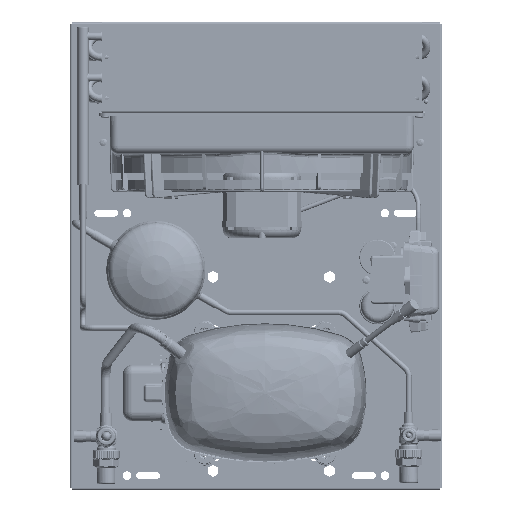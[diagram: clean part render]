
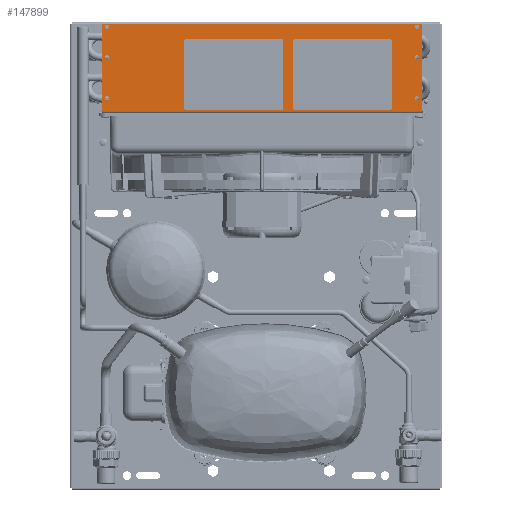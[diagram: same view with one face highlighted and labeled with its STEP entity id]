
A CAD part, top view. The second image highlights one B-rep face of the part: STEP entity #147899.
In plain terms, the highlighted planar face has unit normal (0, 0, 1).
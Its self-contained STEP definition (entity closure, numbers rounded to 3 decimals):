
#15405=LINE('',#241571,#23740);
#15418=LINE('',#241618,#23753);
#15422=LINE('',#241627,#23757);
#15424=LINE('',#241631,#23759);
#23740=VECTOR('',#208455,1000.);
#23753=VECTOR('',#208502,1000.);
#23757=VECTOR('',#208512,1000.);
#23759=VECTOR('',#208518,1000.);
#34549=ORIENTED_EDGE('',*,*,#77783,.F.);
#34550=ORIENTED_EDGE('',*,*,#77784,.F.);
#34551=ORIENTED_EDGE('',*,*,#77785,.F.);
#34552=ORIENTED_EDGE('',*,*,#77786,.F.);
#34553=ORIENTED_EDGE('',*,*,#77787,.F.);
#34554=ORIENTED_EDGE('',*,*,#77788,.F.);
#34555=ORIENTED_EDGE('',*,*,#77775,.T.);
#34556=ORIENTED_EDGE('',*,*,#77780,.F.);
#34557=ORIENTED_EDGE('',*,*,#77752,.F.);
#34558=ORIENTED_EDGE('',*,*,#77782,.T.);
#77752=EDGE_CURVE('',#99896,#99897,#15405,.T.);
#77775=EDGE_CURVE('',#99914,#99912,#15418,.T.);
#77780=EDGE_CURVE('',#99897,#99912,#15422,.T.);
#77782=EDGE_CURVE('',#99896,#99914,#15424,.T.);
#77783=EDGE_CURVE('',#99916,#99916,#114538,.T.);
#77784=EDGE_CURVE('',#99917,#99917,#114539,.T.);
#77785=EDGE_CURVE('',#99918,#99918,#114540,.T.);
#77786=EDGE_CURVE('',#99919,#99919,#114541,.T.);
#77787=EDGE_CURVE('',#99920,#99920,#114542,.T.);
#77788=EDGE_CURVE('',#99921,#99921,#114543,.T.);
#99896=VERTEX_POINT('',#241570);
#99897=VERTEX_POINT('',#241572);
#99912=VERTEX_POINT('',#241616);
#99914=VERTEX_POINT('',#241619);
#99916=VERTEX_POINT('',#241634);
#99917=VERTEX_POINT('',#241636);
#99918=VERTEX_POINT('',#241638);
#99919=VERTEX_POINT('',#241640);
#99920=VERTEX_POINT('',#241642);
#99921=VERTEX_POINT('',#241644);
#114538=CIRCLE('',#193448,2.25);
#114539=CIRCLE('',#193449,2.25);
#114540=CIRCLE('',#193450,2.25);
#114541=CIRCLE('',#193451,2.25);
#114542=CIRCLE('',#193452,2.25);
#114543=CIRCLE('',#193453,2.25);
#119762=EDGE_LOOP('',(#34549));
#119763=EDGE_LOOP('',(#34550));
#119764=EDGE_LOOP('',(#34551));
#119765=EDGE_LOOP('',(#34552));
#119766=EDGE_LOOP('',(#34553));
#119767=EDGE_LOOP('',(#34554));
#119768=EDGE_LOOP('',(#34555,#34556,#34557,#34558));
#131842=FACE_BOUND('',#119762,.T.);
#131843=FACE_BOUND('',#119763,.T.);
#131844=FACE_BOUND('',#119764,.T.);
#131845=FACE_BOUND('',#119765,.T.);
#131846=FACE_BOUND('',#119766,.T.);
#131847=FACE_BOUND('',#119767,.T.);
#131848=FACE_BOUND('',#119768,.T.);
#142370=PLANE('',#193447);
#147899=ADVANCED_FACE('',(#131842,#131843,#131844,#131845,#131846,#131847,
#131848),#142370,.F.);
#193447=AXIS2_PLACEMENT_3D('',#241632,#208519,#208520);
#193448=AXIS2_PLACEMENT_3D('',#241633,#208521,#208522);
#193449=AXIS2_PLACEMENT_3D('',#241635,#208523,#208524);
#193450=AXIS2_PLACEMENT_3D('',#241637,#208525,#208526);
#193451=AXIS2_PLACEMENT_3D('',#241639,#208527,#208528);
#193452=AXIS2_PLACEMENT_3D('',#241641,#208529,#208530);
#193453=AXIS2_PLACEMENT_3D('',#241643,#208531,#208532);
#208455=DIRECTION('',(1.,0.,0.));
#208502=DIRECTION('',(1.,0.,0.));
#208512=DIRECTION('',(0.,-1.,0.));
#208518=DIRECTION('',(0.,-1.,0.));
#208519=DIRECTION('',(0.,0.,-1.));
#208520=DIRECTION('',(-1.,0.,0.));
#208521=DIRECTION('',(0.,0.,1.));
#208522=DIRECTION('',(0.,1.,0.));
#208523=DIRECTION('',(0.,0.,1.));
#208524=DIRECTION('',(0.,1.,0.));
#208525=DIRECTION('',(0.,0.,1.));
#208526=DIRECTION('',(0.,1.,0.));
#208527=DIRECTION('',(0.,0.,1.));
#208528=DIRECTION('',(0.,1.,0.));
#208529=DIRECTION('',(0.,0.,1.));
#208530=DIRECTION('',(0.,1.,0.));
#208531=DIRECTION('',(0.,0.,1.));
#208532=DIRECTION('',(0.,1.,0.));
#241570=CARTESIAN_POINT('',(-45.5,167.5,0.));
#241571=CARTESIAN_POINT('',(-47.5,167.5,0.));
#241572=CARTESIAN_POINT('',(45.5,167.5,0.));
#241616=CARTESIAN_POINT('',(45.5,-167.5,0.));
#241618=CARTESIAN_POINT('',(-47.5,-167.5,0.));
#241619=CARTESIAN_POINT('',(-45.5,-167.5,0.));
#241627=CARTESIAN_POINT('',(45.5,167.5,0.));
#241631=CARTESIAN_POINT('',(-45.5,167.5,0.));
#241632=CARTESIAN_POINT('',(-47.5,167.5,0.));
#241633=CARTESIAN_POINT('',(42.5,162.5,0.));
#241634=CARTESIAN_POINT('',(42.5,164.75,0.));
#241635=CARTESIAN_POINT('',(42.5,-162.5,0.));
#241636=CARTESIAN_POINT('',(42.5,-160.25,0.));
#241637=CARTESIAN_POINT('',(-32.5,-162.5,0.));
#241638=CARTESIAN_POINT('',(-32.5,-160.25,0.));
#241639=CARTESIAN_POINT('',(-32.5,162.5,0.));
#241640=CARTESIAN_POINT('',(-32.5,164.75,0.));
#241641=CARTESIAN_POINT('',(10.5,-162.5,0.));
#241642=CARTESIAN_POINT('',(10.5,-160.25,0.));
#241643=CARTESIAN_POINT('',(10.5,162.5,0.));
#241644=CARTESIAN_POINT('',(10.5,164.75,0.));
